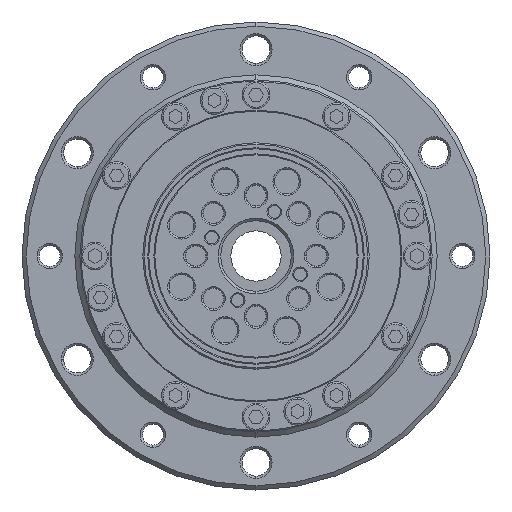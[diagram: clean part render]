
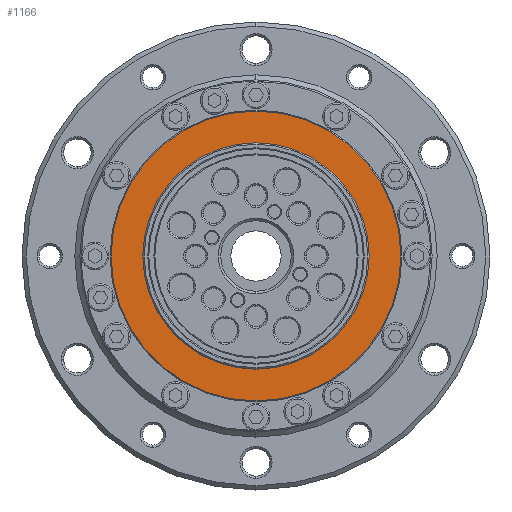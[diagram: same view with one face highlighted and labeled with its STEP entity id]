
A CAD part, left-side view. The second image highlights one B-rep face of the part: STEP entity #1166.
In plain terms, the highlighted planar face has unit normal (-1, 0, 0).
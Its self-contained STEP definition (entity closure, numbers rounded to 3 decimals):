
#1166=ADVANCED_FACE('NONE',(#2596,#2597),#2598,.T.);
#2596=FACE_OUTER_BOUND('',#4306,.T.);
#2597=FACE_BOUND('',#4307,.T.);
#2598=PLANE('',#4308);
#4306=EDGE_LOOP('',(#7691,#7692));
#4307=EDGE_LOOP('',(#7693,#7694));
#4308=AXIS2_PLACEMENT_3D('',#7695,#7696,#7697);
#7691=ORIENTED_EDGE('',*,*,#10301,.F.);
#7692=ORIENTED_EDGE('',*,*,#11015,.F.);
#7693=ORIENTED_EDGE('',*,*,#10394,.T.);
#7694=ORIENTED_EDGE('',*,*,#11057,.T.);
#7695=CARTESIAN_POINT('',(-37.463,-69.107,-28.997));
#7696=DIRECTION('',(-1.0,0.,0.));
#7697=DIRECTION('',(0.,0.0,-1.0));
#10301=EDGE_CURVE('NONE',#12427,#12428,#12429,.T.);
#10394=EDGE_CURVE('NONE',#12578,#12576,#12579,.T.);
#11015=EDGE_CURVE('NONE',#12428,#12427,#13476,.T.);
#11057=EDGE_CURVE('NONE',#12576,#12578,#13524,.T.);
#12427=VERTEX_POINT('NONE',#15323);
#12428=VERTEX_POINT('NONE',#15324);
#12429=CIRCLE('',#15325,28.8);
#12576=VERTEX_POINT('NONE',#15612);
#12578=VERTEX_POINT('NONE',#15615);
#12579=CIRCLE('',#15616,22.5);
#13476=CIRCLE('',#16736,28.8);
#13524=CIRCLE('',#16858,22.5);
#15323=CARTESIAN_POINT('',(-37.463,-69.107,-28.797));
#15324=CARTESIAN_POINT('',(-37.463,-69.107,28.803));
#15325=AXIS2_PLACEMENT_3D('',#18784,#18785,#18786);
#15612=CARTESIAN_POINT('',(-37.463,-69.107,22.503));
#15615=CARTESIAN_POINT('',(-37.463,-69.107,-22.497));
#15616=AXIS2_PLACEMENT_3D('',#18981,#18982,#18983);
#16736=AXIS2_PLACEMENT_3D('',#20050,#20051,#20052);
#16858=AXIS2_PLACEMENT_3D('',#20104,#20105,#20106);
#18784=CARTESIAN_POINT('',(-37.463,-69.107,0.003));
#18785=DIRECTION('',(1.0,0.,0.));
#18786=DIRECTION('',(0.,0.0,-1.0));
#18981=CARTESIAN_POINT('',(-37.463,-69.107,0.003));
#18982=DIRECTION('',(1.0,0.,0.));
#18983=DIRECTION('',(0.,0.0,-1.0));
#20050=CARTESIAN_POINT('',(-37.463,-69.107,0.003));
#20051=DIRECTION('',(1.0,0.,0.));
#20052=DIRECTION('',(0.,0.0,-1.0));
#20104=CARTESIAN_POINT('',(-37.463,-69.107,0.003));
#20105=DIRECTION('',(1.0,0.,0.));
#20106=DIRECTION('',(0.,0.0,-1.0));
